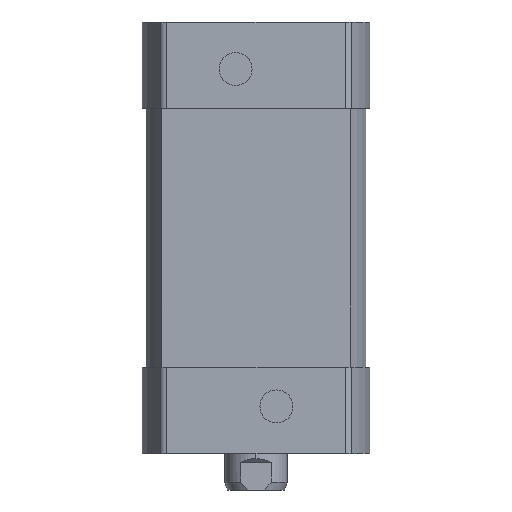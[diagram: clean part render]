
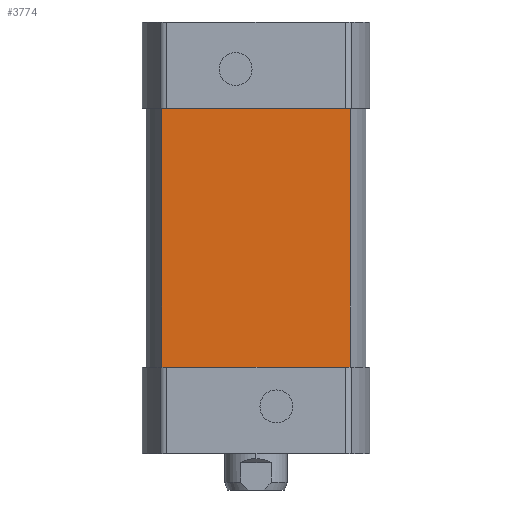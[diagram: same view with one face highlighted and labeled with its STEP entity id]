
A CAD part, left-side view. The second image highlights one B-rep face of the part: STEP entity #3774.
In plain terms, the highlighted planar face has unit normal (-1, 0, 0).
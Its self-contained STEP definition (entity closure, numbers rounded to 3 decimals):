
#1069 = CARTESIAN_POINT ( 'NONE',  ( -14., -12.015, -26.5 ) ) ;
#1570 = EDGE_CURVE ( 'NONE', #15868, #16586, #21367, .T. ) ;
#3261 = CARTESIAN_POINT ( 'NONE',  ( -14., -12.015, -26.5 ) ) ;
#3774 = ADVANCED_FACE ( 'NONE', ( #16018 ), #15766, .T. ) ;
#6115 = CARTESIAN_POINT ( 'NONE',  ( -14., -14., 6.5 ) ) ;
#6432 = DIRECTION ( 'NONE',  ( 0., 0., 1. ) ) ;
#7459 = CARTESIAN_POINT ( 'NONE',  ( -14., 12.015, 6.5 ) ) ;
#7626 = LINE ( 'NONE', #19732, #15019 ) ;
#7629 = DIRECTION ( 'NONE',  ( -1., 0., 0. ) ) ;
#8220 = VERTEX_POINT ( 'NONE', #23994 ) ;
#8235 = DIRECTION ( 'NONE',  ( 0., -1., 0. ) ) ;
#9859 = ORIENTED_EDGE ( 'NONE', *, *, #16631, .F. ) ;
#9954 = ORIENTED_EDGE ( 'NONE', *, *, #1570, .F. ) ;
#10088 = LINE ( 'NONE', #6115, #22182 ) ;
#10215 = CARTESIAN_POINT ( 'NONE',  ( -14., 12.015, -26.5 ) ) ;
#10968 = VERTEX_POINT ( 'NONE', #7459 ) ;
#13687 = DIRECTION ( 'NONE',  ( 0., 0., 1. ) ) ;
#14661 = VECTOR ( 'NONE', #19397, 1000. ) ;
#14995 = ORIENTED_EDGE ( 'NONE', *, *, #25553, .T. ) ;
#15019 = VECTOR ( 'NONE', #17632, 1000. ) ;
#15766 = PLANE ( 'NONE',  #23178 ) ;
#15868 = VERTEX_POINT ( 'NONE', #1069 ) ;
#16018 = FACE_OUTER_BOUND ( 'NONE', #17266, .T. ) ;
#16586 = VERTEX_POINT ( 'NONE', #10215 ) ;
#16631 = EDGE_CURVE ( 'NONE', #10968, #8220, #10088, .T. ) ;
#16945 = CARTESIAN_POINT ( 'NONE',  ( -14., -12.015, -6.5 ) ) ;
#17266 = EDGE_LOOP ( 'NONE', ( #9859, #18999, #9954, #14995 ) ) ;
#17632 = DIRECTION ( 'NONE',  ( 0., 0., 1. ) ) ;
#18999 = ORIENTED_EDGE ( 'NONE', *, *, #22819, .F. ) ;
#19260 = VECTOR ( 'NONE', #6432, 1000. ) ;
#19397 = DIRECTION ( 'NONE',  ( 0., 1., 0. ) ) ;
#19603 = CARTESIAN_POINT ( 'NONE',  ( -14., -14., -6.5 ) ) ;
#19732 = CARTESIAN_POINT ( 'NONE',  ( -14., 12.015, -6.5 ) ) ;
#21367 = LINE ( 'NONE', #3261, #14661 ) ;
#22182 = VECTOR ( 'NONE', #8235, 1000. ) ;
#22819 = EDGE_CURVE ( 'NONE', #16586, #10968, #7626, .T. ) ;
#23178 = AXIS2_PLACEMENT_3D ( 'NONE', #19603, #7629, #13687 ) ;
#23994 = CARTESIAN_POINT ( 'NONE',  ( -14., -12.015, 6.5 ) ) ;
#24434 = LINE ( 'NONE', #16945, #19260 ) ;
#25553 = EDGE_CURVE ( 'NONE', #15868, #8220, #24434, .T. ) ;
